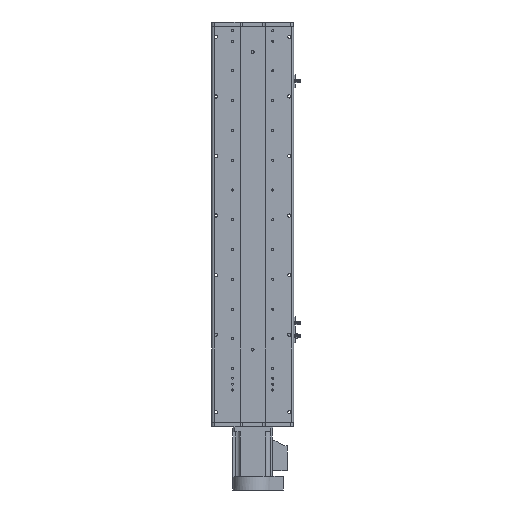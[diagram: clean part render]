
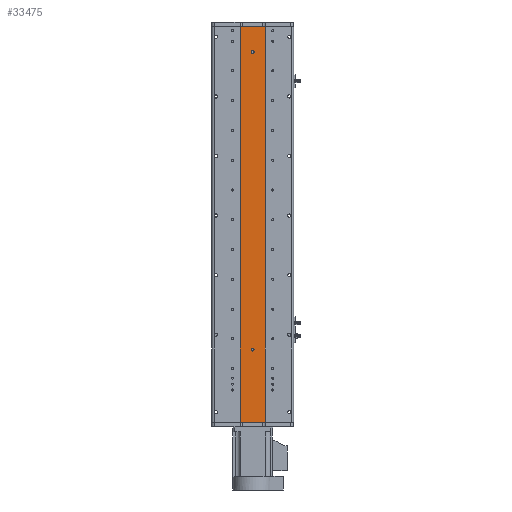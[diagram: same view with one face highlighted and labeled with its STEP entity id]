
A CAD part, front view. The second image highlights one B-rep face of the part: STEP entity #33475.
In plain terms, the highlighted planar face has unit normal (0, -1, 0).
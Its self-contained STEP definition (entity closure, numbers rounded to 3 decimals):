
#116 = CARTESIAN_POINT ( 'NONE',  ( 0., 1., 348. ) ) ;
#307 = ORIENTED_EDGE ( 'NONE', *, *, #22858, .F. ) ;
#942 = CARTESIAN_POINT ( 'NONE',  ( -25., 1., 398. ) ) ;
#2181 = VECTOR ( 'NONE', #21649, 1000. ) ;
#2566 = CARTESIAN_POINT ( 'NONE',  ( 0., 1., 348. ) ) ;
#3094 = DIRECTION ( 'NONE',  ( 0., 0., -1. ) ) ;
#5209 = VERTEX_POINT ( 'NONE', #19182 ) ;
#5288 = AXIS2_PLACEMENT_3D ( 'NONE', #15510, #36044, #18461 ) ;
#5535 = DIRECTION ( 'NONE',  ( 0., 0., -1. ) ) ;
#5852 = FACE_BOUND ( 'NONE', #24382, .T. ) ;
#6791 = EDGE_CURVE ( 'NONE', #26278, #31280, #28687, .T. ) ;
#7216 = CARTESIAN_POINT ( 'NONE',  ( 25., 1., 398. ) ) ;
#8629 = EDGE_CURVE ( 'NONE', #13813, #26278, #11009, .T. ) ;
#8719 = AXIS2_PLACEMENT_3D ( 'NONE', #13229, #33763, #16168 ) ;
#9243 = AXIS2_PLACEMENT_3D ( 'NONE', #116, #20822, #3094 ) ;
#9504 = EDGE_CURVE ( 'NONE', #21885, #31024, #27526, .T. ) ;
#10420 = ORIENTED_EDGE ( 'NONE', *, *, #32727, .F. ) ;
#11009 = LINE ( 'NONE', #942, #2181 ) ;
#13229 = CARTESIAN_POINT ( 'NONE',  ( 0., 1., -252. ) ) ;
#13813 = VERTEX_POINT ( 'NONE', #18278 ) ;
#13979 = VECTOR ( 'NONE', #36629, 1000. ) ;
#14474 = ORIENTED_EDGE ( 'NONE', *, *, #23493, .F. ) ;
#15510 = CARTESIAN_POINT ( 'NONE',  ( 0., 1., -252. ) ) ;
#15619 = CIRCLE ( 'NONE', #15984, 3. ) ;
#15984 = AXIS2_PLACEMENT_3D ( 'NONE', #2566, #23246, #5535 ) ;
#16168 = DIRECTION ( 'NONE',  ( 0., 0., -1. ) ) ;
#16210 = CARTESIAN_POINT ( 'NONE',  ( 25., 1., -398. ) ) ;
#16596 = EDGE_LOOP ( 'NONE', ( #24835, #30514 ) ) ;
#16884 = DIRECTION ( 'NONE',  ( 0., 0., 1. ) ) ;
#17248 = CARTESIAN_POINT ( 'NONE',  ( 0., 1., -249. ) ) ;
#17297 = CARTESIAN_POINT ( 'NONE',  ( 25., 1., -398. ) ) ;
#17902 = CIRCLE ( 'NONE', #5288, 3. ) ;
#18181 = VERTEX_POINT ( 'NONE', #17248 ) ;
#18278 = CARTESIAN_POINT ( 'NONE',  ( -25., 1., 398. ) ) ;
#18364 = EDGE_LOOP ( 'NONE', ( #26965, #20080, #14474, #36902 ) ) ;
#18461 = DIRECTION ( 'NONE',  ( 0., 0., -1. ) ) ;
#19182 = CARTESIAN_POINT ( 'NONE',  ( 0., 1., -255. ) ) ;
#20080 = ORIENTED_EDGE ( 'NONE', *, *, #25385, .F. ) ;
#20673 = FACE_BOUND ( 'NONE', #16596, .T. ) ;
#20822 = DIRECTION ( 'NONE',  ( 0., -1., 0. ) ) ;
#21611 = FACE_OUTER_BOUND ( 'NONE', #18364, .T. ) ;
#21649 = DIRECTION ( 'NONE',  ( 0., 0., -1. ) ) ;
#21885 = VERTEX_POINT ( 'NONE', #37142 ) ;
#22657 = EDGE_CURVE ( 'NONE', #31024, #21885, #15619, .T. ) ;
#22705 = CARTESIAN_POINT ( 'NONE',  ( 25., 1., 398. ) ) ;
#22858 = EDGE_CURVE ( 'NONE', #18181, #5209, #17902, .T. ) ;
#23246 = DIRECTION ( 'NONE',  ( 0., -1., 0. ) ) ;
#23493 = EDGE_CURVE ( 'NONE', #13813, #37788, #36648, .T. ) ;
#24015 = CARTESIAN_POINT ( 'NONE',  ( 0., 1., 351. ) ) ;
#24382 = EDGE_LOOP ( 'NONE', ( #10420, #307 ) ) ;
#24835 = ORIENTED_EDGE ( 'NONE', *, *, #9504, .F. ) ;
#25385 = EDGE_CURVE ( 'NONE', #37788, #31280, #27319, .T. ) ;
#26278 = VERTEX_POINT ( 'NONE', #32108 ) ;
#26965 = ORIENTED_EDGE ( 'NONE', *, *, #6791, .T. ) ;
#26968 = CARTESIAN_POINT ( 'NONE',  ( 25., 1., 398. ) ) ;
#27319 = LINE ( 'NONE', #7216, #34191 ) ;
#27526 = CIRCLE ( 'NONE', #9243, 3. ) ;
#27828 = DIRECTION ( 'NONE',  ( 0., 0., -1. ) ) ;
#28687 = LINE ( 'NONE', #16210, #13979 ) ;
#29766 = VECTOR ( 'NONE', #34582, 1000. ) ;
#30514 = ORIENTED_EDGE ( 'NONE', *, *, #22657, .F. ) ;
#31024 = VERTEX_POINT ( 'NONE', #24015 ) ;
#31271 = CIRCLE ( 'NONE', #8719, 3. ) ;
#31280 = VERTEX_POINT ( 'NONE', #17297 ) ;
#31509 = PLANE ( 'NONE',  #34148 ) ;
#32108 = CARTESIAN_POINT ( 'NONE',  ( -25., 1., -398. ) ) ;
#32727 = EDGE_CURVE ( 'NONE', #5209, #18181, #31271, .T. ) ;
#33475 = ADVANCED_FACE ( 'NONE', ( #20673, #5852, #21611 ), #31509, .F. ) ;
#33763 = DIRECTION ( 'NONE',  ( 0., -1., 0. ) ) ;
#34148 = AXIS2_PLACEMENT_3D ( 'NONE', #22705, #34477, #16884 ) ;
#34191 = VECTOR ( 'NONE', #27828, 1000. ) ;
#34477 = DIRECTION ( 'NONE',  ( 0., 1., 0. ) ) ;
#34582 = DIRECTION ( 'NONE',  ( 1., 0., 0. ) ) ;
#34706 = CARTESIAN_POINT ( 'NONE',  ( 25., 1., 398. ) ) ;
#36044 = DIRECTION ( 'NONE',  ( 0., -1., 0. ) ) ;
#36629 = DIRECTION ( 'NONE',  ( 1., 0., 0. ) ) ;
#36648 = LINE ( 'NONE', #34706, #29766 ) ;
#36902 = ORIENTED_EDGE ( 'NONE', *, *, #8629, .T. ) ;
#37142 = CARTESIAN_POINT ( 'NONE',  ( 0., 1., 345. ) ) ;
#37788 = VERTEX_POINT ( 'NONE', #26968 ) ;
